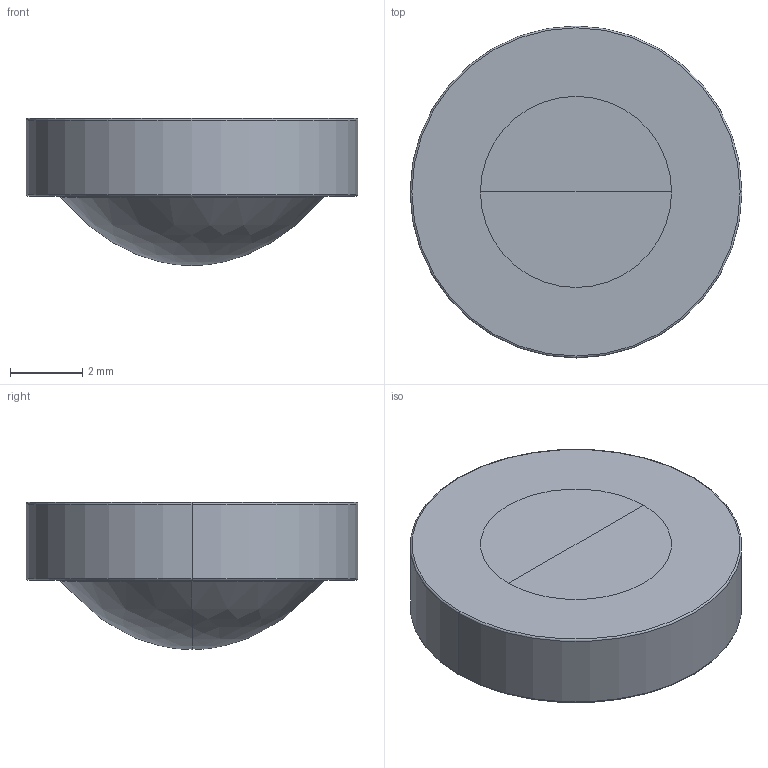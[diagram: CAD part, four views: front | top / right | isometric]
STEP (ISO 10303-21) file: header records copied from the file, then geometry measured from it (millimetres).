
FILE_DESCRIPTION((''),'2;1');
FILE_NAME('354115','2025-07-26T21:41:34',('admin'),('LIGHTPATH'),'CREO PARAMETRIC BY PTC INC, 2024063','CREO PARAMETRIC BY PTC INC, 2024063','');
FILE_SCHEMA(('CONFIG_CONTROL_DESIGN'));
Length unit declared in the file: millimetre
Products named in the file (1): 354115
Bounding box: 9.2 x 9.2 x 4.08 mm (x, y, z)
Volume: 185.6 mm3; surface area: 204.5 mm2
Topology: 1 solids, 1 shells, 14 faces, 30 edges, 16 vertices
Faces by surface type: torus 6, revolution 4, plane 2, cylinder 2
Entity records: 921 total; most frequent: CARTESIAN_POINT 585, DIRECTION 68, ORIENTED_EDGE 52, AXIS2_PLACEMENT_3D 30, EDGE_CURVE 26, CIRCLE 20, VERTEX_POINT 16, EDGE_LOOP 16
